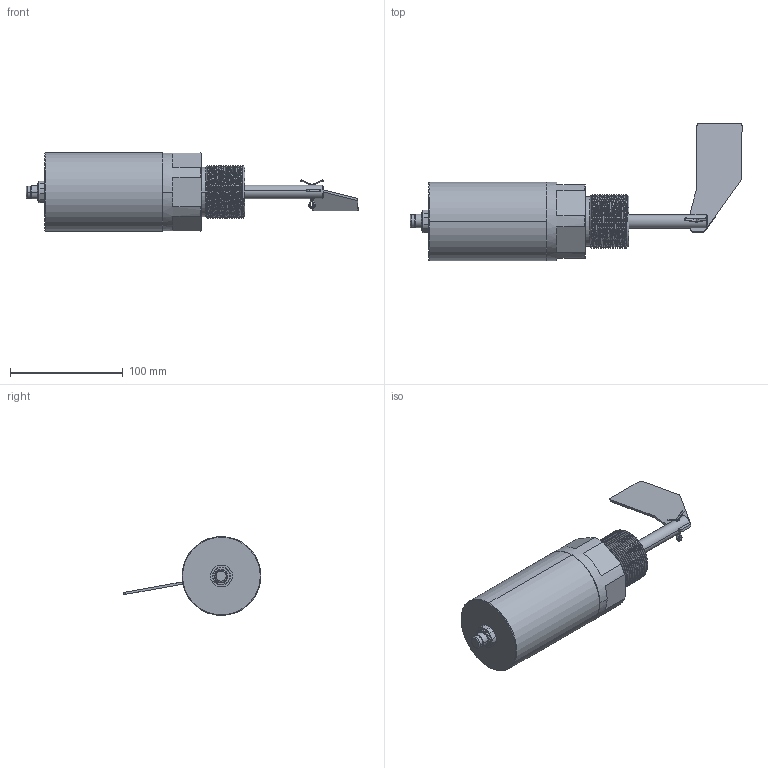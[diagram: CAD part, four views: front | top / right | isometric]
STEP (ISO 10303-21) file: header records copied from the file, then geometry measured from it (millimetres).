
FILE_DESCRIPTION (( 'STEP AP214' ), '1' );
FILE_NAME ('MBA888_230V 謥踙摳.STP.STEP', '2021-02-21T20:49:16', ( '' ), ( '' ), 'SwSTEP 2.0', 'SolidWorks 2020', '' );
FILE_SCHEMA (( 'AUTOMOTIVE_DESIGN' ));
Length unit declared in the file: millimetre
Products named in the file (9): MBA888_24V_P2 謥踙摳.STP; MBA888_24V_P5.STP; Øïèëüêà (2); MBA888_24V_P3.STP; MBA888_230V_P1.STP; Ëîïàñòü; MBA888_24V_P4.STP; MBA888_230V.STP.STP; MBA888_230V 謥踙摳.STP
Assembly tree (8 placements, depth 3):
  MBA888_230V 謥踙摳.STP
    MBA888_230V.STP.STP
      MBA888_24V_P2 謥踙摳.STP
      MBA888_24V_P3.STP
      MBA888_24V_P4.STP
      MBA888_24V_P5.STP
      MBA888_230V_P1.STP
    Øïèëüêà (2)
    Ëîïàñòü
Bounding box: 295 x 122.28 x 70 mm (x, y, z)
Volume: 272909.8 mm3; surface area: 101165.8 mm2
Topology: 7 solids, 7 shells, 291 faces, 699 edges, 440 vertices
Faces by surface type: cylinder 140, plane 84, cone 37, torus 27, bspline 3
Entity records: 17253 total; most frequent: CARTESIAN_POINT 10110, DIRECTION 1502, ORIENTED_EDGE 1390, EDGE_CURVE 695, AXIS2_PLACEMENT_3D 606, VERTEX_POINT 440, EDGE_LOOP 325, CIRCLE 306
